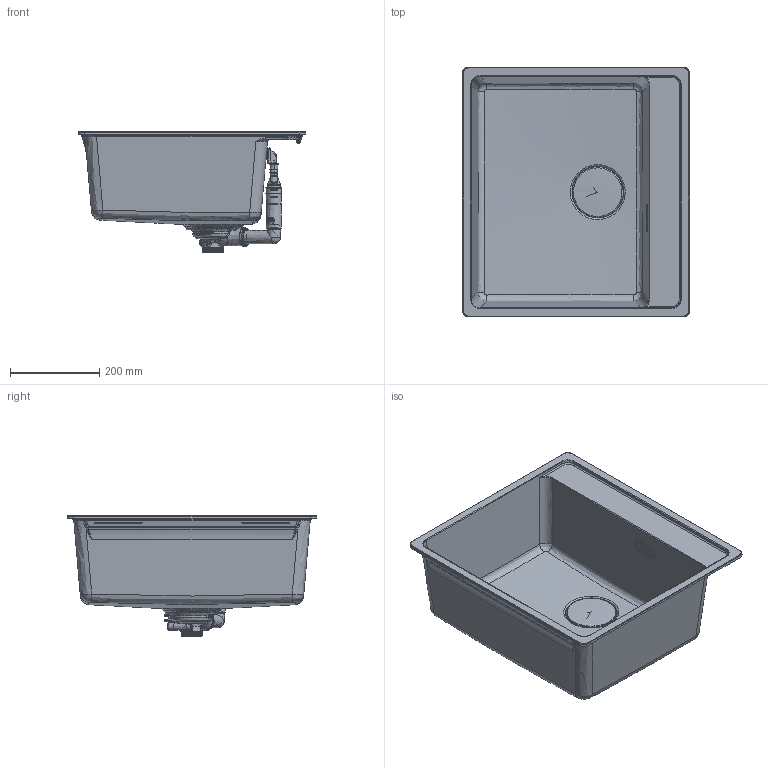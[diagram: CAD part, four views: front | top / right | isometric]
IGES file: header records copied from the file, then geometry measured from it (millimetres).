
Global section: file name: MRG 610-52 TL; native system: Autodesk Inventor 2021; preprocessor: unknown; date: 20210910.140449; units: millimetre
Bounding box: 510 x 560 x 271.19 mm (x, y, z)
Volume: 4450053.2 mm3; surface area: 1388833.4 mm2
Topology: 20 solids, 21 shells, 5131 faces, 13746 edges, 8846 vertices
Faces by surface type: bspline 5131
